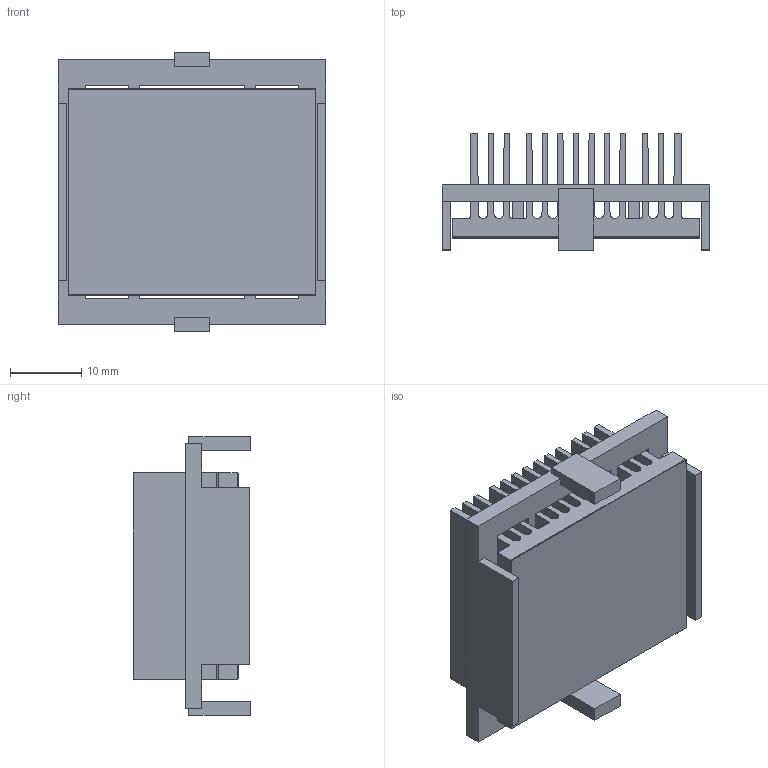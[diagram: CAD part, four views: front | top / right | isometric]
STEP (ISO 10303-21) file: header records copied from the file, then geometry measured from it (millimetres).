
FILE_DESCRIPTION (( 'STEP AP214' ), '1' );
FILE_NAME ('INH35001-15-2.6BU.STEP', '2023-02-17T22:44:58', ( '' ), ( '' ), 'SwSTEP 2.0', 'SolidWorks 2020', '' );
FILE_SCHEMA (( 'AUTOMOTIVE_DESIGN' ));
Length unit declared in the file: millimetre
Products named in the file (1): INH35001-15-2.6BU
Bounding box: 37.7 x 16.5 x 39.2 mm (x, y, z)
Volume: 8345.5 mm3; surface area: 16249.9 mm2
Topology: 3 solids, 3 shells, 144 faces, 414 edges, 276 vertices
Faces by surface type: plane 118, cylinder 26
Entity records: 6310 total; most frequent: CARTESIAN_POINT 835, ORIENTED_EDGE 828, DIRECTION 756, EDGE_CURVE 414, VECTOR 362, LINE 362, VERTEX_POINT 276, AXIS2_PLACEMENT_3D 197
